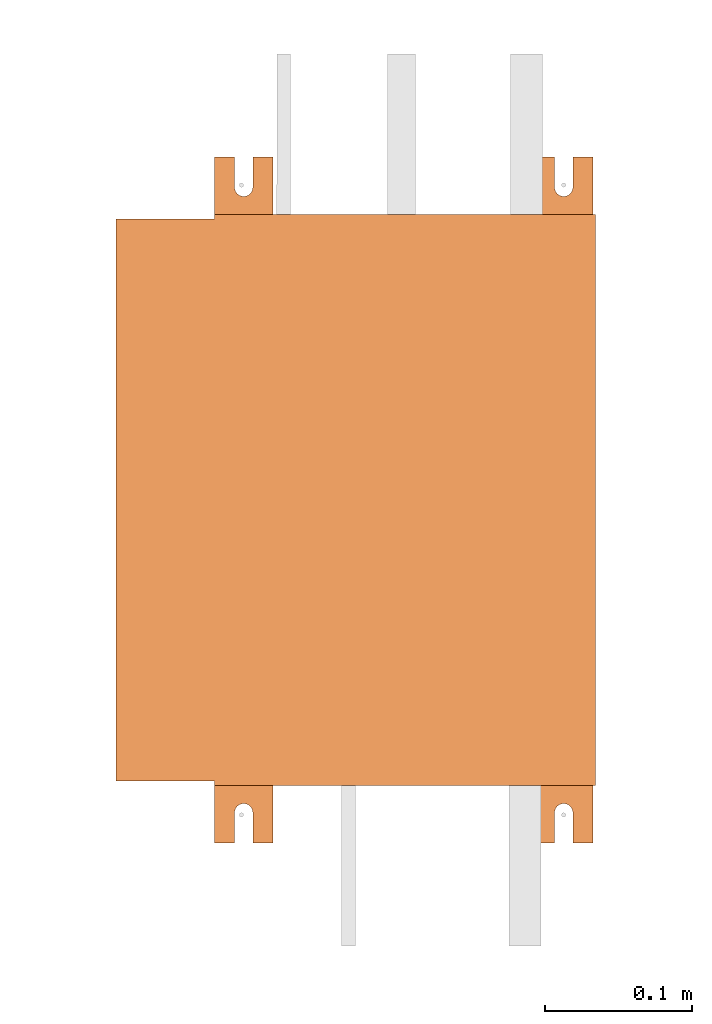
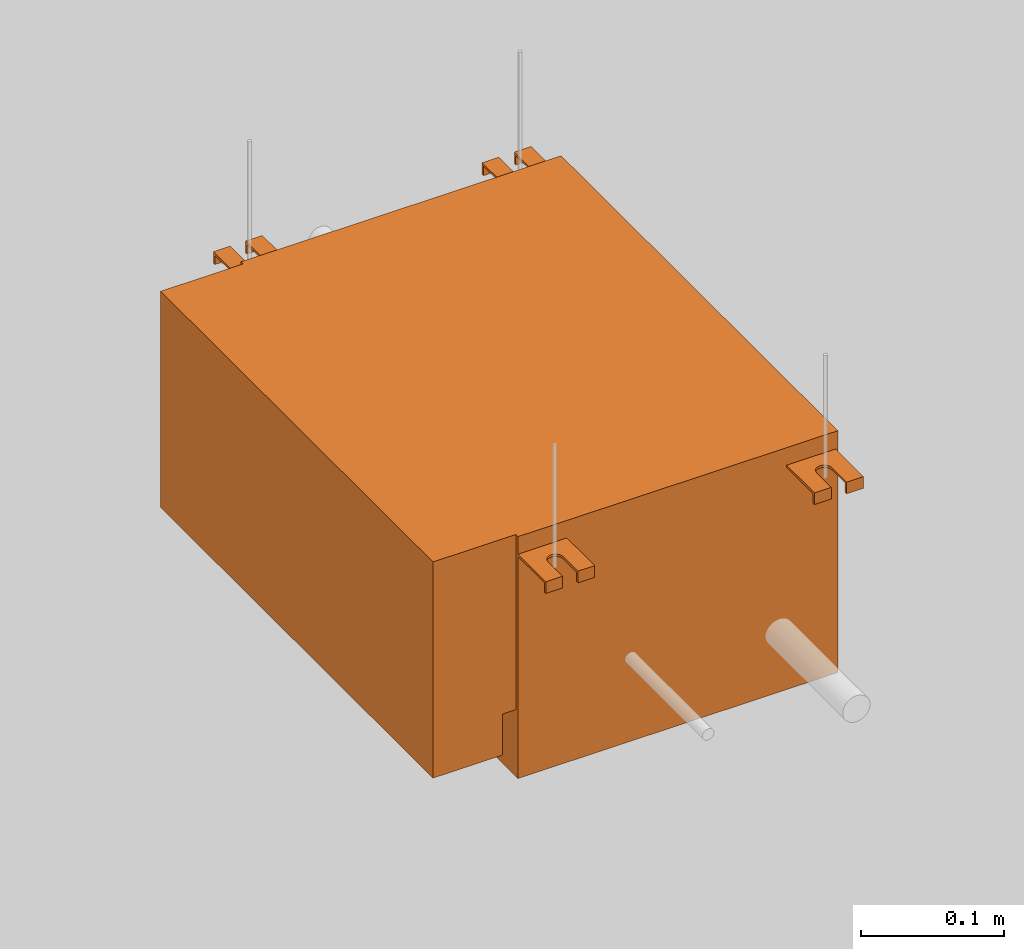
# One storey, part 5 of 5: 1 proxy.
"""IFC2X3 building model written with IfcOpenShell, lengths in millimetres."""

from ifc_helpers import new_model, entity, si_unit, converted_unit, derived_unit, direction, frame, origin, place, context, subcontext, project, spatial, faceted_brep, source, transform, mapped, material, type_object, type_shapes, element, save


model = new_model("IFC2X3")

# Units and contexts
model_context = context("Model", 3, precision=0.01, world=origin(), true_north=direction((6.12303176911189e-17, 1.0)))
body_context = subcontext(model_context, "Body", "Model", "MODEL_VIEW")
ifc_project = project(units=[si_unit("LENGTHUNIT", "METRE", prefix="MILLI"), si_unit("AREAUNIT", "SQUARE_METRE"), si_unit("VOLUMEUNIT", "CUBIC_METRE"), converted_unit("PLANEANGLEUNIT", "DEGREE", entity("IfcRatioMeasure", 0.0174532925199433), si_unit("PLANEANGLEUNIT", "RADIAN"), dimensions=[0, 0, 0, 0, 0, 0, 0]), si_unit("MASSUNIT", "GRAM", prefix="KILO"), derived_unit("MASSDENSITYUNIT", [(si_unit("MASSUNIT", "GRAM", prefix="KILO"), 1), (si_unit("LENGTHUNIT", "METRE"), -3)]), si_unit("TIMEUNIT", "SECOND"), si_unit("FREQUENCYUNIT", "HERTZ"), si_unit("THERMODYNAMICTEMPERATUREUNIT", "DEGREE_CELSIUS"), derived_unit("THERMALTRANSMITTANCEUNIT", [(si_unit("MASSUNIT", "GRAM", prefix="KILO"), 1), (si_unit("THERMODYNAMICTEMPERATUREUNIT", "KELVIN"), -1), (si_unit("TIMEUNIT", "SECOND"), -3)]), derived_unit("VOLUMETRICFLOWRATEUNIT", [(si_unit("LENGTHUNIT", "METRE"), 3), (si_unit("TIMEUNIT", "SECOND"), -1)]), si_unit("ELECTRICCURRENTUNIT", "AMPERE"), si_unit("ELECTRICVOLTAGEUNIT", "VOLT"), si_unit("POWERUNIT", "WATT"), si_unit("FORCEUNIT", "NEWTON", prefix="KILO"), si_unit("ILLUMINANCEUNIT", "LUX"), si_unit("LUMINOUSFLUXUNIT", "LUMEN"), si_unit("LUMINOUSINTENSITYUNIT", "CANDELA"), derived_unit("USERDEFINED", [(si_unit("MASSUNIT", "GRAM", prefix="KILO"), -1), (si_unit("LENGTHUNIT", "METRE"), -2), (si_unit("TIMEUNIT", "SECOND"), 3), (si_unit("LUMINOUSFLUXUNIT", "LUMEN"), 1)]), derived_unit("LINEARVELOCITYUNIT", [(si_unit("LENGTHUNIT", "METRE"), 1), (si_unit("TIMEUNIT", "SECOND"), -1)]), si_unit("PRESSUREUNIT", "PASCAL"), derived_unit("USERDEFINED", [(si_unit("LENGTHUNIT", "METRE"), -2), (si_unit("MASSUNIT", "GRAM", prefix="KILO"), 1), (si_unit("TIMEUNIT", "SECOND"), -2)])], contexts=[model_context])

# Site, building, storey
site_placement = place(None, origin())
site = spatial("IfcSite", under=ifc_project, at=site_placement, Name="Default", CompositionType="ELEMENT")
building_placement = place(site_placement, origin())
building = spatial("IfcBuilding", under=site, at=building_placement, CompositionType="ELEMENT")
storey_placement = place(building_placement, origin())
storey = spatial("IfcBuildingStorey", under=building, at=storey_placement, Name="Level 1", CompositionType="ELEMENT", Elevation=0.0)

# Proxy
ifc_material = material(Name="RSen_x_rgb 199 235 223 T00 galvanised steel plate_gen")
building_element_proxy_type = type_object("IfcBuildingElementProxyType", Name="standard", PredefinedType="NOTDEFINED", material=ifc_material)
shared_shape = source(origin(), body_context, "Body", "Brep", [
    faceted_brep([(231.0, 56.3697154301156, 25.0), (233.0, 56.3697154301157, 25.0), (233.0, 69.9570987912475, 25.0), (231.0, 69.9570987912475, 25.0), (231.0, 82.4126166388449, 25.0), (233.0, 82.4126166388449, 25.0), (233.0, 96.0, 25.0), (231.0, 96.0, 25.0), (194.0, 56.3697154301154, 17.0), (231.0, 56.3697154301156, 17.0), (231.0, 69.9570987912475, 17.0), (212.494132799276, 69.9570987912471, 17.0), (210.88227018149, 70.1693045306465, 17.0), (209.380253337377, 70.7914602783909, 17.0), (208.090442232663, 71.7811671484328, 17.0), (207.100735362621, 73.0709782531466, 17.0), (206.478579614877, 74.5729950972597, 17.0), (206.266373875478, 76.184857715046, 17.0), (206.478579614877, 77.7967203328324, 17.0), (207.100735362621, 79.2987371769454, 17.0), (208.090442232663, 80.5885482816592, 17.0), (209.380253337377, 81.578255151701, 17.0), (210.88227018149, 82.2004108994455, 17.0), (212.494132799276, 82.4126166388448, 17.0), (231.0, 82.4126166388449, 17.0), (231.0, 96.0, 17.0), (194.0, 96.0, 17.0), (233.0, 96.0, 15.0), (233.0, 82.4126166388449, 15.0), (212.494132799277, 82.4126166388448, 15.0), (210.88227018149, 82.2004108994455, 15.0), (209.380253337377, 81.578255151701, 15.0), (208.090442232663, 80.5885482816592, 15.0), (207.100735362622, 79.2987371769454, 15.0), (206.478579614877, 77.7967203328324, 15.0), (206.266373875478, 76.184857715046, 15.0), (206.478579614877, 74.5729950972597, 15.0), (207.100735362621, 73.0709782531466, 15.0), (208.090442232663, 71.7811671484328, 15.0), (209.380253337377, 70.791460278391, 15.0), (210.88227018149, 70.1693045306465, 15.0), (212.494132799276, 69.9570987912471, 15.0), (233.0, 69.9570987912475, 15.0), (233.0, 56.3697154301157, 15.0), (194.0, 56.3697154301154, 15.0), (194.0, 96.0, 15.0)], [[[0, 1, 2, 3]], [[4, 5, 6, 7]], [[8, 9, 10, 11, 12, 13, 14, 15, 16, 17, 18, 19, 20, 21, 22, 23, 24, 25, 26]], [[27, 28, 29, 30, 31, 32, 33, 34, 35, 36, 37, 38, 39, 40, 41, 42, 43, 44, 45]], [[25, 7, 6, 27, 45, 26]], [[28, 27, 6, 5]], [[43, 42, 2, 1]], [[23, 29, 28, 5, 4, 24]], [[25, 24, 4, 7]], [[10, 9, 0, 3]], [[10, 3, 2, 42, 41, 11]], [[8, 44, 43, 1, 0, 9]], [[45, 44, 8, 26]], [[22, 21, 31, 30]], [[23, 22, 30, 29]], [[19, 18, 34, 33]], [[20, 19, 33, 32]], [[21, 20, 32, 31]], [[18, 17, 35, 34]], [[15, 14, 38, 37]], [[16, 15, 37, 36]], [[12, 11, 41, 40]], [[13, 12, 40, 39]], [[14, 13, 39, 38]], [[36, 35, 17, 16]]]),
    faceted_brep([(231.0, -135.069906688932, 25.0), (233.0, -135.069906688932, 25.0), (233.0, -121.4825233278, 25.0), (231.0, -121.4825233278, 25.0), (231.0, -161.112807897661, 25.0), (233.0, -161.112807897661, 25.0), (233.0, -147.525424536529, 25.0), (231.0, -147.525424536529, 25.0), (194.0, -161.112807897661, 17.0), (231.0, -161.112807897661, 17.0), (231.0, -147.525424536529, 17.0), (212.494132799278, -147.52542453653, 17.0), (210.882270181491, -147.31321879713, 17.0), (209.380253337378, -146.691063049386, 17.0), (208.090442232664, -145.701356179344, 17.0), (207.100735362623, -144.41154507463, 17.0), (206.478579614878, -142.909528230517, 17.0), (206.266373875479, -141.297665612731, 17.0), (206.478579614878, -139.685802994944, 17.0), (207.100735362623, -138.183786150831, 17.0), (208.090442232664, -136.893975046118, 17.0), (209.380253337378, -135.904268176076, 17.0), (210.882270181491, -135.282112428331, 17.0), (212.494132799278, -135.069906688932, 17.0), (231.0, -135.069906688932, 17.0), (231.0, -121.4825233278, 17.0), (194.0, -121.4825233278, 17.0), (233.0, -121.4825233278, 15.0), (233.0, -135.069906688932, 15.0), (212.494132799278, -135.069906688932, 15.0), (210.882270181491, -135.282112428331, 15.0), (209.380253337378, -135.904268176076, 15.0), (208.090442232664, -136.893975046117, 15.0), (207.100735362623, -138.183786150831, 15.0), (206.478579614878, -139.685802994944, 15.0), (206.266373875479, -141.297665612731, 15.0), (206.478579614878, -142.909528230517, 15.0), (207.100735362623, -144.41154507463, 15.0), (208.090442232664, -145.701356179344, 15.0), (209.380253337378, -146.691063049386, 15.0), (210.882270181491, -147.31321879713, 15.0), (212.494132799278, -147.52542453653, 15.0), (233.0, -147.525424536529, 15.0), (233.0, -161.112807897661, 15.0), (194.0, -161.112807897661, 15.0), (194.0, -121.4825233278, 15.0)], [[[0, 1, 2, 3]], [[4, 5, 6, 7]], [[8, 9, 10, 11, 12, 13, 14, 15, 16, 17, 18, 19, 20, 21, 22, 23, 24, 25, 26]], [[27, 28, 29, 30, 31, 32, 33, 34, 35, 36, 37, 38, 39, 40, 41, 42, 43, 44, 45]], [[25, 3, 2, 27, 45, 26]], [[28, 27, 2, 1]], [[43, 42, 6, 5]], [[23, 29, 28, 1, 0, 24]], [[25, 24, 0, 3]], [[10, 9, 4, 7]], [[10, 7, 6, 42, 41, 11]], [[8, 44, 43, 5, 4, 9]], [[45, 44, 8, 26]], [[22, 21, 31, 30]], [[23, 22, 30, 29]], [[19, 18, 34, 33]], [[20, 19, 33, 32]], [[21, 20, 32, 31]], [[18, 17, 35, 34]], [[15, 14, 38, 37]], [[16, 15, 37, 36]], [[12, 11, 41, 40]], [[13, 12, 40, 39]], [[14, 13, 39, 38]], [[36, 35, 17, 16]]]),
    faceted_brep([(-233.0, 56.3697154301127, 25.0), (-231.0, 56.3697154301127, 25.0), (-231.0, 69.9570987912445, 25.0), (-233.0, 69.9570987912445, 25.0), (-233.0, 82.4126166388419, 25.0), (-231.0, 82.4126166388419, 25.0), (-231.0, 96.0, 25.0), (-233.0, 96.0, 25.0), (-231.0, 69.9570987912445, 17.0), (-231.0, 56.3697154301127, 17.0), (-194.0, 56.3697154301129, 17.0), (-194.0, 96.0, 17.0), (-231.0, 96.0, 17.0), (-231.0, 82.4126166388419, 17.0), (-212.494132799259, 82.4126166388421, 17.0), (-210.882270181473, 82.2004108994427, 17.0), (-209.38025333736, 81.5782551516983, 17.0), (-208.090442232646, 80.5885482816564, 17.0), (-207.100735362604, 79.2987371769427, 17.0), (-206.47857961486, 77.7967203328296, 17.0), (-206.266373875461, 76.1848577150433, 17.0), (-206.47857961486, 74.5729950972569, 17.0), (-207.100735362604, 73.0709782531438, 17.0), (-208.090442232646, 71.7811671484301, 17.0), (-209.38025333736, 70.7914602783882, 17.0), (-210.882270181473, 70.1693045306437, 17.0), (-212.494132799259, 69.9570987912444, 17.0), (-194.0, 96.0, 15.0), (-194.0, 56.3697154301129, 15.0), (-233.0, 56.3697154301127, 15.0), (-233.0, 69.9570987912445, 15.0), (-212.494132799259, 69.9570987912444, 15.0), (-210.882270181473, 70.1693045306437, 15.0), (-209.38025333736, 70.7914602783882, 15.0), (-208.090442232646, 71.7811671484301, 15.0), (-207.100735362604, 73.0709782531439, 15.0), (-206.47857961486, 74.572995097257, 15.0), (-206.266373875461, 76.1848577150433, 15.0), (-206.47857961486, 77.7967203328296, 15.0), (-207.100735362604, 79.2987371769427, 15.0), (-208.090442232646, 80.5885482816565, 15.0), (-209.38025333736, 81.5782551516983, 15.0), (-210.882270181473, 82.2004108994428, 15.0), (-212.494132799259, 82.412616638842, 15.0), (-233.0, 82.4126166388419, 15.0), (-233.0, 96.0, 15.0)], [[[0, 1, 2, 3]], [[4, 5, 6, 7]], [[8, 9, 10, 11, 12, 13, 14, 15, 16, 17, 18, 19, 20, 21, 22, 23, 24, 25, 26]], [[27, 28, 29, 30, 31, 32, 33, 34, 35, 36, 37, 38, 39, 40, 41, 42, 43, 44, 45]], [[13, 12, 6, 5]], [[9, 8, 2, 1]], [[13, 5, 4, 44, 43, 14]], [[45, 44, 4, 7]], [[30, 29, 0, 3]], [[11, 27, 45, 7, 6, 12]], [[9, 1, 0, 29, 28, 10]], [[26, 31, 30, 3, 2, 8]], [[25, 24, 33, 32]], [[26, 25, 32, 31]], [[22, 21, 36, 35]], [[23, 22, 35, 34]], [[24, 23, 34, 33]], [[21, 20, 37, 36]], [[18, 17, 40, 39]], [[19, 18, 39, 38]], [[15, 14, 43, 42]], [[16, 15, 42, 41]], [[17, 16, 41, 40]], [[20, 19, 38, 37]], [[28, 27, 11, 10]]]),
    faceted_brep([(-233.0, -161.112807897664, 25.0), (-231.0, -161.112807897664, 25.0), (-231.0, -147.525424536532, 25.0), (-233.0, -147.525424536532, 25.0), (-233.0, -135.069906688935, 25.0), (-231.0, -135.069906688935, 25.0), (-231.0, -121.482523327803, 25.0), (-233.0, -121.482523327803, 25.0), (-194.0, -121.482523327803, 15.0), (-194.0, -161.112807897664, 15.0), (-233.0, -161.112807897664, 15.0), (-233.0, -147.525424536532, 15.0), (-212.494132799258, -147.525424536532, 15.0), (-210.882270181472, -147.313218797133, 15.0), (-209.380253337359, -146.691063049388, 15.0), (-208.090442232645, -145.701356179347, 15.0), (-207.100735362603, -144.411545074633, 15.0), (-206.478579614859, -142.90952823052, 15.0), (-206.266373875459, -141.297665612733, 15.0), (-206.478579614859, -139.685802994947, 15.0), (-207.100735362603, -138.183786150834, 15.0), (-208.090442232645, -136.89397504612, 15.0), (-209.380253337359, -135.904268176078, 15.0), (-210.882270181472, -135.282112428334, 15.0), (-212.494132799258, -135.069906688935, 15.0), (-233.0, -135.069906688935, 15.0), (-233.0, -121.482523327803, 15.0), (-231.0, -135.069906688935, 17.0), (-231.0, -121.482523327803, 17.0), (-231.0, -161.112807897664, 17.0), (-231.0, -147.525424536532, 17.0), (-212.494132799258, -135.069906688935, 17.0), (-194.0, -121.482523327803, 17.0), (-194.0, -161.112807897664, 17.0), (-212.494132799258, -147.525424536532, 17.0), (-210.882270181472, -135.282112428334, 17.0), (-209.380253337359, -135.904268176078, 17.0), (-208.090442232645, -136.89397504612, 17.0), (-207.100735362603, -138.183786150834, 17.0), (-206.478579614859, -139.685802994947, 17.0), (-206.266373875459, -141.297665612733, 17.0), (-206.478579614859, -142.90952823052, 17.0), (-207.100735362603, -144.411545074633, 17.0), (-208.090442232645, -145.701356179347, 17.0), (-209.380253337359, -146.691063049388, 17.0), (-210.882270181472, -147.313218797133, 17.0)], [[[0, 1, 2, 3]], [[4, 5, 6, 7]], [[8, 9, 10, 11, 12, 13, 14, 15, 16, 17, 18, 19, 20, 21, 22, 23, 24, 25, 26]], [[27, 28, 6, 5]], [[29, 30, 2, 1]], [[27, 5, 4, 25, 24, 31]], [[26, 25, 4, 7]], [[11, 10, 0, 3]], [[32, 8, 26, 7, 6, 28]], [[29, 1, 0, 10, 9, 33]], [[34, 12, 11, 3, 2, 30]], [[30, 29, 33, 32, 28, 27, 31, 35, 36, 37, 38, 39, 40, 41, 42, 43, 44, 45, 34]], [[12, 34, 45, 13]], [[13, 45, 44, 14]], [[16, 15, 43, 42]], [[44, 43, 15, 14]], [[17, 16, 42, 41]], [[40, 18, 17, 41]], [[19, 39, 38, 20]], [[20, 38, 37, 21]], [[23, 22, 36, 35]], [[37, 36, 22, 21]], [[24, 23, 35, 31]], [[19, 18, 40, 39]], [[9, 8, 32, 33]]]),
    faceted_brep([(191.0, 106.733314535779, 149.883469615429), (191.0, 96.0, 149.883469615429), (191.0, 96.0, 0.0), (191.0, 106.733314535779, 0.0), (-191.0, 106.733314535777, 149.883469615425), (-191.0, 106.733314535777, 0.0), (-191.0, 96.0, 0.0), (-191.0, 96.0, 149.883469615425)], [[[0, 1, 2, 3]], [[4, 5, 6, 7]], [[1, 0, 4, 7]], [[2, 1, 7, 6]], [[3, 2, 6, 5]], [[0, 3, 5, 4]]]),
    faceted_brep([(191.0, 163.0, 0.0), (191.0, 163.0, 185.0), (191.0, 106.733314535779, 185.0), (191.0, 106.733314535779, 0.0), (-191.0, 163.0, 0.0), (-191.0, 106.733314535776, 0.0), (-191.0, 106.733314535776, 185.0), (-191.0, 163.0, 185.0)], [[[0, 1, 2, 3]], [[4, 5, 6, 7]], [[1, 0, 4, 7]], [[2, 1, 7, 6]], [[3, 2, 6, 5]], [[0, 3, 5, 4]]]),
    faceted_brep([(194.0, -163.0, 0.0), (-194.0, -163.0, 0.0), (-194.0, 96.0, 0.0), (194.0, 96.0, 0.0), (194.0, -163.0, 207.0), (194.0, 96.0, 207.0), (-194.0, 96.0, 207.0), (-194.0, -163.0, 207.0)], [[[0, 1, 2, 3]], [[4, 5, 6, 7]], [[1, 0, 4, 7]], [[2, 1, 7, 6]], [[3, 2, 6, 5]], [[0, 3, 5, 4]]]),
])
type_shapes(building_element_proxy_type, [shared_shape])
proxy_placement = place(storey_placement, frame((10290.1283142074, -15720.0150040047, 2415.0), z_axis=(0.0, -1.74532925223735e-05, -1.0), x_axis=(0.0, -1.0, 1.74532925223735e-05)))
element("IfcBuildingElementProxy", 1, at=proxy_placement, inside=storey, type_object=building_element_proxy_type, material=ifc_material, Name="RSen_55_ME_FB_SOg - bs1q25a7v1b - SH_daikin_tbq:standard", ObjectType="standard", context=body_context, shape_type="MappedRepresentation", body=[
    mapped(shared_shape, transform((0.0, 0.0, 0.0), scale=1.0)),
])

save(model, "model.ifc")
